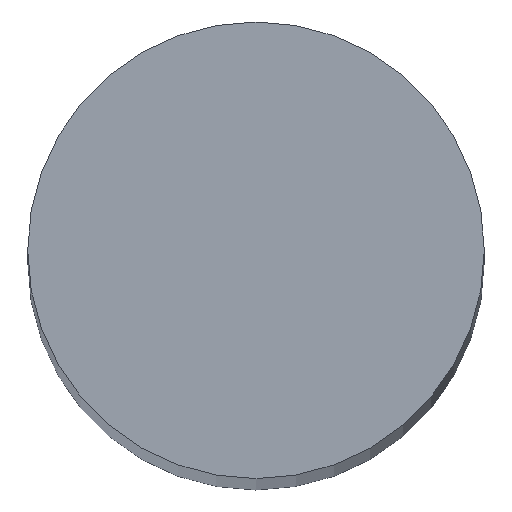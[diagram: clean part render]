
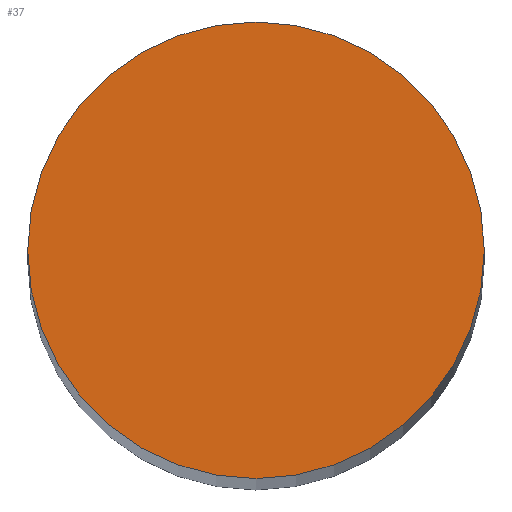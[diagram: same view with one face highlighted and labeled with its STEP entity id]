
A CAD part, top view. The second image highlights one B-rep face of the part: STEP entity #37.
In plain terms, the highlighted planar face has unit normal (0, 0, 1).
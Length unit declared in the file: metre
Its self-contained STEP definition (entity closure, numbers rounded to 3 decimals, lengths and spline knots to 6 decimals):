
#12=PLANE('',#82);
#16=ORIENTED_EDGE('',*,*,#18,.T.);
#18=EDGE_CURVE('',#20,#20,#22,.T.);
#20=VERTEX_POINT('',#99);
#22=CIRCLE('',#80,0.003556);
#26=EDGE_LOOP('',(#16));
#30=FACE_BOUND('',#26,.T.);
#37=ADVANCED_FACE('',(#30),#12,.T.);
#80=AXIS2_PLACEMENT_3D('',#98,#88,#89);
#82=AXIS2_PLACEMENT_3D('',#102,#92,#93);
#88=DIRECTION('',(0.,0.,1.));
#89=DIRECTION('',(1.,0.,0.));
#92=DIRECTION('',(0.,0.,1.));
#93=DIRECTION('',(1.,0.,0.));
#98=CARTESIAN_POINT('',(0.,0.,0.1016));
#99=CARTESIAN_POINT('',(0.003556,0.,0.1016));
#102=CARTESIAN_POINT('',(0.,0.,0.1016));
